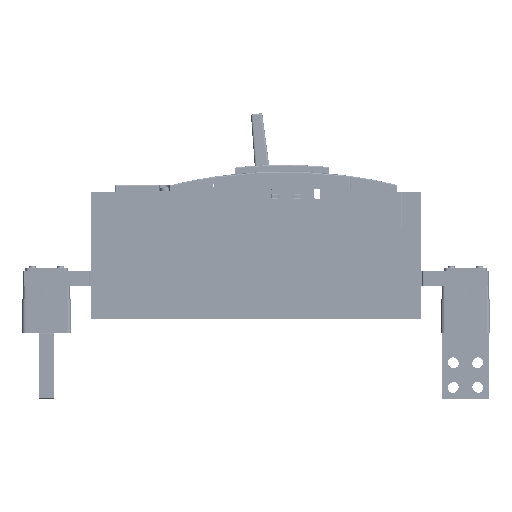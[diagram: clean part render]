
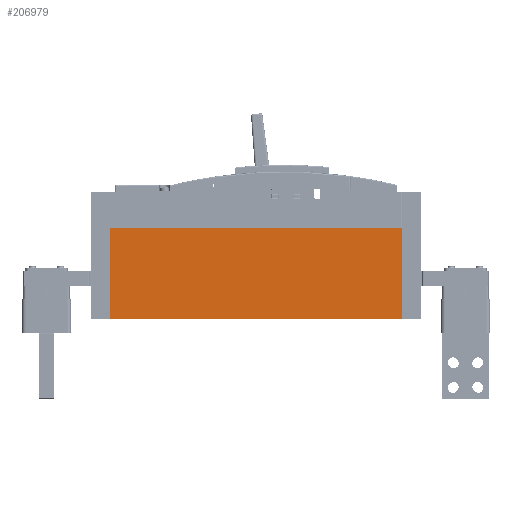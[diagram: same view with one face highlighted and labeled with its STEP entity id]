
A CAD part, left-side view. The second image highlights one B-rep face of the part: STEP entity #206979.
In plain terms, the highlighted planar face has unit normal (-1, 0, 0).
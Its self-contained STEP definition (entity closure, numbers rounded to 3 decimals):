
#55995 = VERTEX_POINT ( 'NONE', #274948 ) ;
#56000 = EDGE_CURVE ( 'NONE', #56004, #55995, #274941, .T. ) ;
#56004 = VERTEX_POINT ( 'NONE', #275041 ) ;
#56930 = VERTEX_POINT ( 'NONE', #279480 ) ;
#56936 = EDGE_CURVE ( 'NONE', #56930, #56941, #279471, .T. ) ;
#56941 = VERTEX_POINT ( 'NONE', #279457 ) ;
#164811 = FACE_OUTER_BOUND ( 'NONE', #206984, .T. ) ;
#164957 = DIRECTION ( 'NONE',  ( 0., 0., -1. ) ) ;
#164959 = DIRECTION ( 'NONE',  ( 1., 0., 0. ) ) ;
#164964 = CARTESIAN_POINT ( 'NONE',  ( -185.989, -171.523, 59.794 ) ) ;
#164966 = AXIS2_PLACEMENT_3D ( 'NONE', #164964, #164959, #164957 ) ;
#164977 = PLANE ( 'NONE',  #164966 ) ;
#165024 = DIRECTION ( 'NONE',  ( 0., 0., -1. ) ) ;
#165026 = VECTOR ( 'NONE', #165024, 1000. ) ;
#165030 = CARTESIAN_POINT ( 'NONE',  ( -185.989, -171.523, 59.794 ) ) ;
#165033 = LINE ( 'NONE', #165030, #165026 ) ;
#165168 = DIRECTION ( 'NONE',  ( 0., 0., -1. ) ) ;
#165171 = VECTOR ( 'NONE', #165168, 1000. ) ;
#165172 = CARTESIAN_POINT ( 'NONE',  ( -185.989, 138.477, 59.794 ) ) ;
#165175 = LINE ( 'NONE', #165172, #165171 ) ;
#206979 = ADVANCED_FACE ( 'NONE', ( #164811 ), #164977, .F. ) ;
#206984 = EDGE_LOOP ( 'NONE', ( #207002, #207009, #207020, #207041 ) ) ;
#207002 = ORIENTED_EDGE ( 'NONE', *, *, #207085, .T. ) ;
#207009 = ORIENTED_EDGE ( 'NONE', *, *, #56000, .T. ) ;
#207020 = ORIENTED_EDGE ( 'NONE', *, *, #207030, .F. ) ;
#207030 = EDGE_CURVE ( 'NONE', #56941, #55995, #165033, .T. ) ;
#207041 = ORIENTED_EDGE ( 'NONE', *, *, #56936, .F. ) ;
#207085 = EDGE_CURVE ( 'NONE', #56930, #56004, #165175, .T. ) ;
#274937 = DIRECTION ( 'NONE',  ( 0., -1., 0. ) ) ;
#274938 = VECTOR ( 'NONE', #274937, 1000. ) ;
#274940 = CARTESIAN_POINT ( 'NONE',  ( -185.989, -171.523, -36.706 ) ) ;
#274941 = LINE ( 'NONE', #274940, #274938 ) ;
#274948 = CARTESIAN_POINT ( 'NONE',  ( -185.989, -171.523, -36.706 ) ) ;
#275041 = CARTESIAN_POINT ( 'NONE',  ( -185.989, 138.477, -36.706 ) ) ;
#279457 = CARTESIAN_POINT ( 'NONE',  ( -185.989, -171.523, 59.794 ) ) ;
#279462 = DIRECTION ( 'NONE',  ( 0., -1., 0. ) ) ;
#279465 = VECTOR ( 'NONE', #279462, 1000. ) ;
#279469 = CARTESIAN_POINT ( 'NONE',  ( -185.989, -171.523, 59.794 ) ) ;
#279471 = LINE ( 'NONE', #279469, #279465 ) ;
#279480 = CARTESIAN_POINT ( 'NONE',  ( -185.989, 138.477, 59.794 ) ) ;
